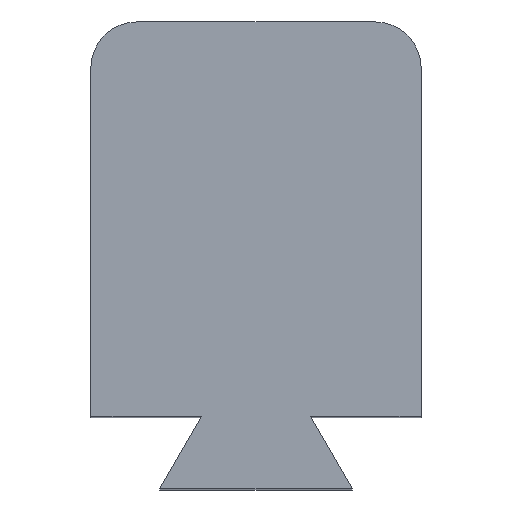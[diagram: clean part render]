
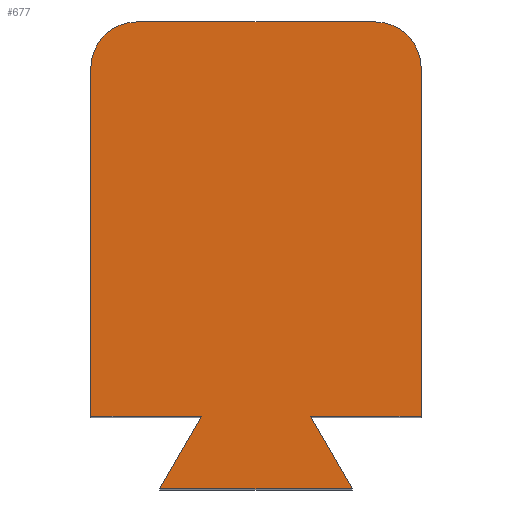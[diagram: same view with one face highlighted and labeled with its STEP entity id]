
A CAD part, top view. The second image highlights one B-rep face of the part: STEP entity #677.
In plain terms, the highlighted planar face has unit normal (0, 0, 1).
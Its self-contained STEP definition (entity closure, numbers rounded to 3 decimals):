
#22=PLANE('',#778);
#75=FACE_OUTER_BOUND('',#117,.T.);
#117=EDGE_LOOP('',(#583,#584,#585,#586,#587,#588,#589,#590,#591,#592));
#140=LINE('',#1087,#192);
#158=LINE('',#1177,#210);
#161=LINE('',#1183,#213);
#163=LINE('',#1187,#215);
#164=LINE('',#1189,#216);
#165=LINE('',#1191,#217);
#166=LINE('',#1193,#218);
#167=LINE('',#1194,#219);
#192=VECTOR('',#862,10.);
#210=VECTOR('',#978,10.);
#213=VECTOR('',#983,10.);
#215=VECTOR('',#987,10.);
#216=VECTOR('',#988,10.);
#217=VECTOR('',#989,10.);
#218=VECTOR('',#990,10.);
#219=VECTOR('',#991,10.);
#243=CIRCLE('',#722,5.);
#274=CIRCLE('',#779,5.);
#289=VERTEX_POINT('',#1063);
#290=VERTEX_POINT('',#1065);
#299=VERTEX_POINT('',#1085);
#321=VERTEX_POINT('',#1174);
#322=VERTEX_POINT('',#1176);
#324=VERTEX_POINT('',#1182);
#325=VERTEX_POINT('',#1186);
#326=VERTEX_POINT('',#1188);
#327=VERTEX_POINT('',#1190);
#328=VERTEX_POINT('',#1192);
#356=EDGE_CURVE('',#289,#290,#243,.T.);
#367=EDGE_CURVE('',#299,#289,#140,.T.);
#411=EDGE_CURVE('',#321,#322,#158,.T.);
#414=EDGE_CURVE('',#324,#290,#161,.F.);
#416=EDGE_CURVE('',#299,#325,#163,.T.);
#417=EDGE_CURVE('',#326,#325,#164,.T.);
#418=EDGE_CURVE('',#327,#326,#165,.T.);
#419=EDGE_CURVE('',#328,#327,#166,.T.);
#420=EDGE_CURVE('',#328,#322,#167,.T.);
#421=EDGE_CURVE('',#324,#321,#274,.T.);
#583=ORIENTED_EDGE('',*,*,#356,.F.);
#584=ORIENTED_EDGE('',*,*,#367,.F.);
#585=ORIENTED_EDGE('',*,*,#416,.T.);
#586=ORIENTED_EDGE('',*,*,#417,.F.);
#587=ORIENTED_EDGE('',*,*,#418,.F.);
#588=ORIENTED_EDGE('',*,*,#419,.F.);
#589=ORIENTED_EDGE('',*,*,#420,.T.);
#590=ORIENTED_EDGE('',*,*,#411,.F.);
#591=ORIENTED_EDGE('',*,*,#421,.F.);
#592=ORIENTED_EDGE('',*,*,#414,.T.);
#677=ADVANCED_FACE('',(#75),#22,.T.);
#722=AXIS2_PLACEMENT_3D('',#1066,#844,#845);
#778=AXIS2_PLACEMENT_3D('',#1185,#985,#986);
#779=AXIS2_PLACEMENT_3D('',#1195,#992,#993);
#844=DIRECTION('center_axis',(0.,0.,-1.));
#845=DIRECTION('ref_axis',(-0.707,0.707,0.));
#862=DIRECTION('',(0.,1.,0.));
#978=DIRECTION('',(0.,-1.,0.));
#983=DIRECTION('',(1.,0.,0.));
#985=DIRECTION('center_axis',(0.,0.,1.));
#986=DIRECTION('ref_axis',(0.,-1.,0.));
#987=DIRECTION('',(1.,0.,0.));
#988=DIRECTION('',(0.5,0.866,0.));
#989=DIRECTION('',(-1.,0.,0.));
#990=DIRECTION('',(0.5,-0.866,0.));
#991=DIRECTION('',(1.,0.,0.));
#992=DIRECTION('center_axis',(0.,0.,-1.));
#993=DIRECTION('ref_axis',(0.707,0.707,0.));
#1063=CARTESIAN_POINT('',(-18.,38.,68.));
#1065=CARTESIAN_POINT('',(-13.,43.,68.));
#1066=CARTESIAN_POINT('Origin',(-13.,38.,68.));
#1085=CARTESIAN_POINT('',(-18.,0.,68.));
#1087=CARTESIAN_POINT('',(-18.,39.,68.));
#1174=CARTESIAN_POINT('',(18.,38.,68.));
#1176=CARTESIAN_POINT('',(18.,0.,68.));
#1177=CARTESIAN_POINT('',(18.,39.,68.));
#1182=CARTESIAN_POINT('',(13.,43.,68.));
#1183=CARTESIAN_POINT('',(0.,43.,68.));
#1185=CARTESIAN_POINT('Origin',(0.,39.,68.));
#1186=CARTESIAN_POINT('',(-5.942,0.,68.));
#1187=CARTESIAN_POINT('',(0.,0.,68.));
#1188=CARTESIAN_POINT('',(-10.503,-7.9,68.));
#1189=CARTESIAN_POINT('',(3.237,15.899,68.));
#1190=CARTESIAN_POINT('',(10.503,-7.9,68.));
#1191=CARTESIAN_POINT('',(-5.309,-7.9,68.));
#1192=CARTESIAN_POINT('',(5.942,0.,68.));
#1193=CARTESIAN_POINT('',(-0.928,11.899,68.));
#1194=CARTESIAN_POINT('',(0.,0.,68.));
#1195=CARTESIAN_POINT('Origin',(13.,38.,68.));
